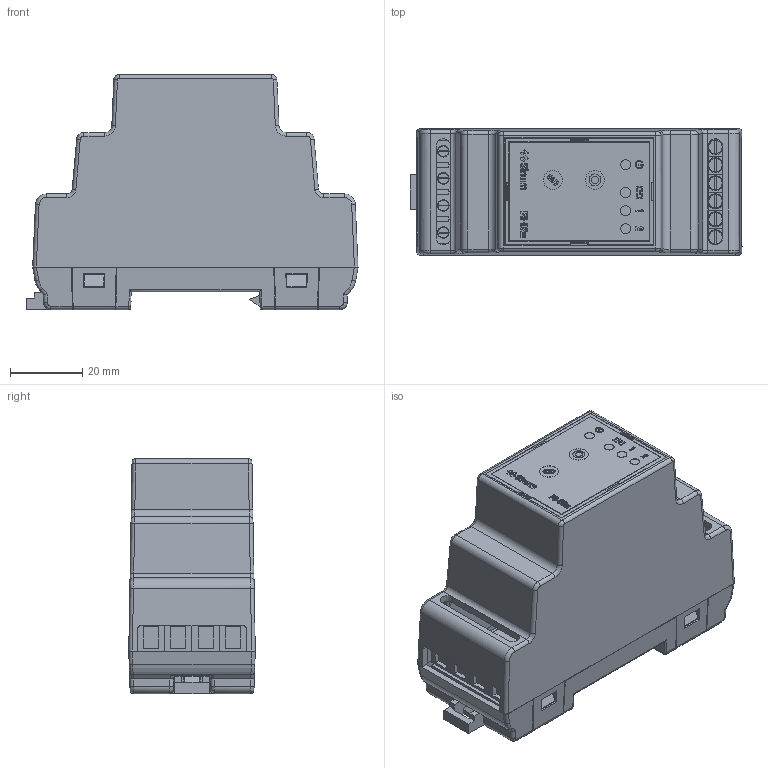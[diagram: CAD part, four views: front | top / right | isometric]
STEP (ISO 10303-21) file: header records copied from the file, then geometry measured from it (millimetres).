
FILE_DESCRIPTION(/* description */ (''),/* implementation_level */ '2;1');
FILE_NAME(/* name */ 'PS-02m.step',/* time_stamp */ '2026-01-24T11:44:40+01:00',/* author */ (''),/* organization */ (''),/* preprocessor_version */ 'ST-DEVELOPER v20.1',/* originating_system */ 'Autodesk Translation Framework v14.24.0.0',/* authorisation */ '');
FILE_SCHEMA (('AUTOMOTIVE_DESIGN { 1 0 10303 214 3 1 1 }'));
Products named in the file (25): OP-1014; OP-1014_A; OP-1014_B_2; OP-1014_D; OP-1014_naklejka; OP-267-D; 2przekaźnik_eagle(5201); ST-1000_2_P_EAGLE(5201); PCB Component(5201); Board(5201); 0207_5V(5201); 0207_10(5201); TB10S(5201); GOLDPIN_7-8_2.54MM_2DIN_PK(5201); SOD80C@2(5201); ANGLE-SW1-16_1(5201); FIDUCIAL_G10(5201); E3,5-8(5201); R1206(5201); GQ-SS_16A(5201); SOT-23_T_4(5201); LTV-354(5201); ŁĄCZKA 7,5MM(5201); Skręcana łączka_1pin(5201); S_023.05.000.00064 czarny, S_023.05.000.00063 ocynk
Assembly tree (43 placements, depth 5):
  OP-1014
    OP-1014_A
    OP-1014_B_2
    OP-1014_D
    OP-1014_naklejka
    S_023.05.000.00064 czarny, S_023.05.000.00063 ocynk  x2
    OP-267-D
    2przekaźnik_eagle(5201)
      ST-1000_2_P_EAGLE(5201)
        PCB Component(5201)
          Board(5201)
          SOD80C@2(5201)  x2
          ANGLE-SW1-16_1(5201)  x2
          FIDUCIAL_G10(5201)  x2
          0207_5V(5201)
          E3,5-8(5201)  x2
          R1206(5201)  x4
          0207_10(5201)
          GQ-SS_16A(5201)  x2
          TB10S(5201)
          GOLDPIN_7-8_2.54MM_2DIN_PK(5201)
          SOT-23_T_4(5201)  x2
          LTV-354(5201)  x2
          ŁĄCZKA 7,5MM(5201)  x4
          Skręcana łączka_1pin(5201)  x6
Bounding box: 91.85 x 35 x 65.1 mm (x, y, z)
Volume: 45857.8 mm3; surface area: 56598 mm2
Topology: 52 solids, 52 shells, 3709 faces, 10242 edges, 6785 vertices
Faces by surface type: plane 3023, bspline 341, cylinder 269, cone 64, torus 8, sphere 4
Full cylindrical faces by diameter (mm): 0.5 x4, 0.6 x9, 0.813 x8, 1 x8, 1.016 x7, 1.2 x1, 1.3 x4, 1.5 x8, 2 x1, 2.1 x4, 2.9 x2, 2.926 x4, 3.186 x4, 3.2 x2, 3.295 x1, 3.7 x6, 4 x6
Entity records: 106232 total; most frequent: CARTESIAN_POINT 23276, ORIENTED_EDGE 18048, DIRECTION 14881, EDGE_CURVE 9024, LINE 7785, VECTOR 7785, VERTEX_POINT 5978, AXIS2_PLACEMENT_3D 3548
